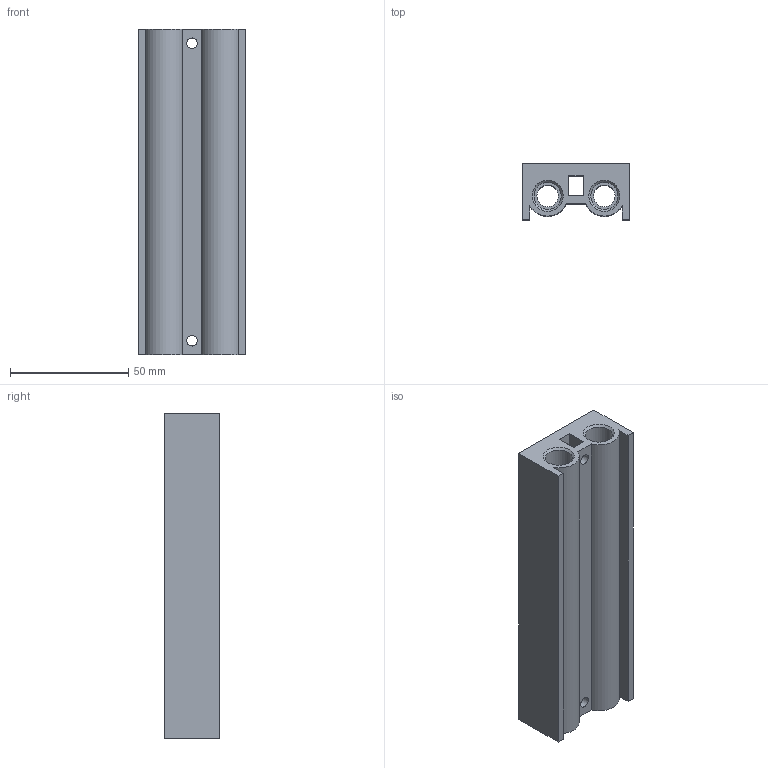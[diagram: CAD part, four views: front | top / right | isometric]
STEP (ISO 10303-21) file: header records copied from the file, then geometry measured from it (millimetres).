
FILE_DESCRIPTION( ( 'STEP AP214' ), '1' );
FILE_NAME( 'C:/Users/EMC02301/Desktop/1/V322-5F.stp', '2026-07-30T05:05:16', ( 'License CC BY-ND 4.0' ), ( 'CADENAS' ), ' ', 'PARTsolutions', ' ' );
FILE_SCHEMA( ( 'AUTOMOTIVE_DESIGN { 1 0 10303 214 1 1 1 1 }' ) );
Length unit declared in the file: millimetre
Products named in the file (1): _V322-5F
Bounding box: 45 x 23.5 x 138 mm (x, y, z)
Volume: 91491.7 mm3; surface area: 37902.2 mm2
Topology: 1 solids, 1 shells, 94 faces, 222 edges, 144 vertices
Faces by surface type: plane 48, cylinder 32, cone 14
Full cylindrical faces by diameter (mm): 3.242 x10, 4.5 x4, 9.157 x2, 10 x10, 11.445 x4
Entity records: 3526 total; most frequent: CARTESIAN_POINT 733, DIRECTION 424, ORIENTED_EDGE 332, EDGE_LOOP 186, AXIS2_PLACEMENT_3D 183, EDGE_CURVE 166, VERTEX_POINT 132, FACE_OUTER_BOUND 124
